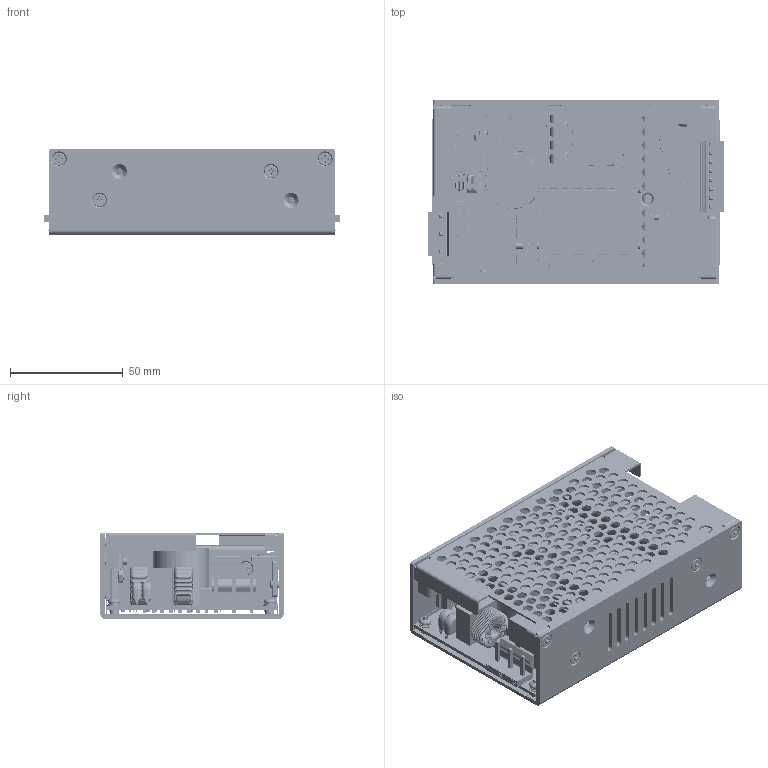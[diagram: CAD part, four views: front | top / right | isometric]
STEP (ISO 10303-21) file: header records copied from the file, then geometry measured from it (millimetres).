
FILE_DESCRIPTION(/* description */ (''),/* implementation_level */ '2;1');
FILE_NAME(/* name */ 'D:\Inventor\3D Files\200508\AQF120E A TYPE.stp',/* time_stamp */ '2020-04-23T16:21:54+08:00',/* author */ ('peter'),/* organization */ (''),/* preprocessor_version */ 'ST-DEVELOPER v15.2',/* originating_system */ 'Autodesk Inventor 2014',/* authorisation */ '');
FILE_SCHEMA (('AUTOMOTIVE_DESIGN { 1 0 10303 214 3 1 1 }'));
Products named in the file (42): BOT CASE; M3 - 4mm; M3 - 2mm; PCB; X3 HEATSINK; INSULATOR TO-220; I HEATSINK; SCREW PH M3_12 mm; X2 HEATSINK; SCREW PH M3_10 mm; X1 HEATSINK; TO-220FP; TO-220FP_1; SCREW CH_W  M3_8mm; BD1; SCREW PH M3_8mm; M3; VR; A TYPE - IN; A TYPE - OUT; LED; L1; L1_1; Y -- C; Y -- C_1; Y -- C_2; Y -- C_3; Y -- C_4; LABEL - 12S; PCB - A TYPE; MYLAR - CASE 1; P100 _ 50 X 35 mm; SCREW PH M3_6mm; THREADED CLIP Max; SCREW CH_W  M3_6mm; AQF120U A TYPE; TOP CASE; AQF120E A TYPE
Bounding box: 131.4 x 81.4 x 38.1 mm (x, y, z)
Volume: 161452.6 mm3; surface area: 168438.3 mm2
Topology: 76 solids, 250 shells, 8623 faces, 17539 edges, 9271 vertices
Faces by surface type: cylinder 3318, torus 2927, plane 1932, bspline 277, cone 152, sphere 17
Full cylindrical faces by diameter (mm): 0.45 x3, 0.5 x1, 0.6 x16, 1.85 x2, 2.459 x27, 3 x18, 3.1 x6, 3.2 x22, 3.5 x7, 4 x11, 4.1 x11, 4.219 x1, 4.5 x227, 4.7 x1, 5.8 x18, 6 x2, 6.129 x1, 6.353 x1, 8.825 x1, 8.853 x1, 9.476 x1, 10.037 x1, 10.297 x1, 12.809 x2, 12.995 x1, 19.003 x1, 24.791 x1
Entity records: 221781 total; most frequent: CARTESIAN_POINT 54681, DIRECTION 37492, ORIENTED_EDGE 33570, AXIS2_PLACEMENT_3D 16294, EDGE_CURVE 15388, EDGE_LOOP 9114, VERTEX_POINT 8091, ADVANCED_FACE 7924
